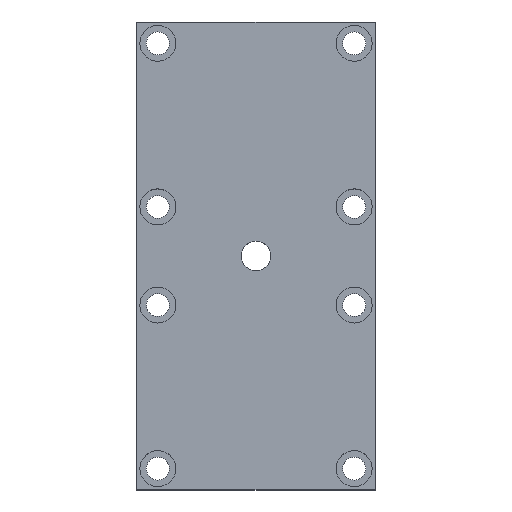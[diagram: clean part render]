
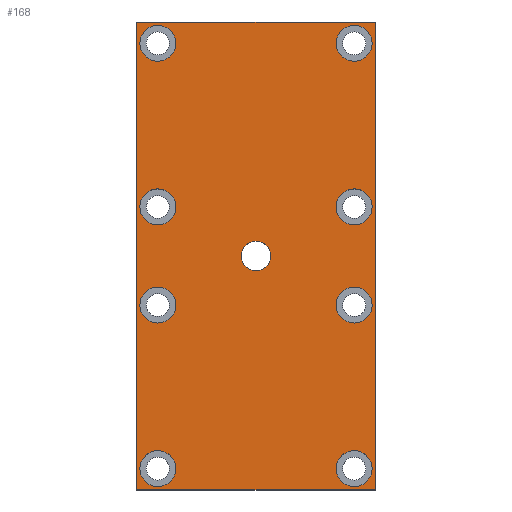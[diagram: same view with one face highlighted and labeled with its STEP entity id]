
A CAD part, top view. The second image highlights one B-rep face of the part: STEP entity #168.
In plain terms, the highlighted planar face has unit normal (0, 0, 1).
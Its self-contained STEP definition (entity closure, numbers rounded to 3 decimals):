
#69=FACE_BOUND('',#226,.T.);
#70=FACE_BOUND('',#227,.T.);
#71=FACE_BOUND('',#228,.T.);
#72=FACE_BOUND('',#229,.T.);
#73=FACE_BOUND('',#230,.T.);
#74=FACE_BOUND('',#231,.T.);
#75=FACE_BOUND('',#232,.T.);
#76=FACE_BOUND('',#233,.T.);
#77=FACE_BOUND('',#234,.T.);
#78=FACE_BOUND('',#235,.T.);
#138=CIRCLE('',#505,4.5);
#139=CIRCLE('',#506,5.5);
#140=CIRCLE('',#507,5.5);
#141=CIRCLE('',#508,5.5);
#142=CIRCLE('',#509,5.5);
#143=CIRCLE('',#510,5.5);
#144=CIRCLE('',#511,5.5);
#145=CIRCLE('',#512,5.5);
#146=CIRCLE('',#513,5.5);
#168=ADVANCED_FACE('',(#69,#70,#71,#72,#73,#74,#75,#76,#77,#78),#199,.T.);
#199=PLANE('',#514);
#226=EDGE_LOOP('',(#315));
#227=EDGE_LOOP('',(#316));
#228=EDGE_LOOP('',(#317));
#229=EDGE_LOOP('',(#318));
#230=EDGE_LOOP('',(#319));
#231=EDGE_LOOP('',(#320));
#232=EDGE_LOOP('',(#321));
#233=EDGE_LOOP('',(#322));
#234=EDGE_LOOP('',(#323));
#235=EDGE_LOOP('',(#324,#325,#326,#327));
#315=ORIENTED_EDGE('',*,*,#441,.T.);
#316=ORIENTED_EDGE('',*,*,#442,.T.);
#317=ORIENTED_EDGE('',*,*,#443,.T.);
#318=ORIENTED_EDGE('',*,*,#444,.T.);
#319=ORIENTED_EDGE('',*,*,#445,.T.);
#320=ORIENTED_EDGE('',*,*,#446,.T.);
#321=ORIENTED_EDGE('',*,*,#447,.T.);
#322=ORIENTED_EDGE('',*,*,#448,.T.);
#323=ORIENTED_EDGE('',*,*,#449,.T.);
#324=ORIENTED_EDGE('',*,*,#420,.T.);
#325=ORIENTED_EDGE('',*,*,#424,.T.);
#326=ORIENTED_EDGE('',*,*,#427,.T.);
#327=ORIENTED_EDGE('',*,*,#430,.T.);
#378=VERTEX_POINT('',#702);
#379=VERTEX_POINT('',#703);
#382=VERTEX_POINT('',#711);
#384=VERTEX_POINT('',#717);
#395=VERTEX_POINT('',#745);
#396=VERTEX_POINT('',#747);
#397=VERTEX_POINT('',#749);
#398=VERTEX_POINT('',#751);
#399=VERTEX_POINT('',#753);
#400=VERTEX_POINT('',#755);
#401=VERTEX_POINT('',#757);
#402=VERTEX_POINT('',#759);
#403=VERTEX_POINT('',#761);
#420=EDGE_CURVE('',#378,#379,#466,.T.);
#424=EDGE_CURVE('',#379,#382,#470,.T.);
#427=EDGE_CURVE('',#382,#384,#473,.T.);
#430=EDGE_CURVE('',#384,#378,#476,.T.);
#441=EDGE_CURVE('',#395,#395,#138,.T.);
#442=EDGE_CURVE('',#396,#396,#139,.T.);
#443=EDGE_CURVE('',#397,#397,#140,.T.);
#444=EDGE_CURVE('',#398,#398,#141,.T.);
#445=EDGE_CURVE('',#399,#399,#142,.T.);
#446=EDGE_CURVE('',#400,#400,#143,.T.);
#447=EDGE_CURVE('',#401,#401,#144,.T.);
#448=EDGE_CURVE('',#402,#402,#145,.T.);
#449=EDGE_CURVE('',#403,#403,#146,.T.);
#466=LINE('',#701,#478);
#470=LINE('',#710,#482);
#473=LINE('',#716,#485);
#476=LINE('',#722,#488);
#478=VECTOR('',#558,1.);
#482=VECTOR('',#564,1.);
#485=VECTOR('',#569,1.);
#488=VECTOR('',#574,1.);
#505=AXIS2_PLACEMENT_3D('',#744,#598,#599);
#506=AXIS2_PLACEMENT_3D('',#746,#600,#601);
#507=AXIS2_PLACEMENT_3D('',#748,#602,#603);
#508=AXIS2_PLACEMENT_3D('',#750,#604,#605);
#509=AXIS2_PLACEMENT_3D('',#752,#606,#607);
#510=AXIS2_PLACEMENT_3D('',#754,#608,#609);
#511=AXIS2_PLACEMENT_3D('',#756,#610,#611);
#512=AXIS2_PLACEMENT_3D('',#758,#612,#613);
#513=AXIS2_PLACEMENT_3D('',#760,#614,#615);
#514=AXIS2_PLACEMENT_3D('',#762,#616,#617);
#558=DIRECTION('',(1.,0.,0.));
#564=DIRECTION('',(0.,1.,0.));
#569=DIRECTION('',(-1.,0.,0.));
#574=DIRECTION('',(0.,-1.,0.));
#598=DIRECTION('',(0.,0.,-1.));
#599=DIRECTION('',(-1.,0.,0.));
#600=DIRECTION('',(0.,0.,-1.));
#601=DIRECTION('',(-1.,0.,0.));
#602=DIRECTION('',(0.,0.,-1.));
#603=DIRECTION('',(-1.,0.,0.));
#604=DIRECTION('',(0.,0.,-1.));
#605=DIRECTION('',(-1.,0.,0.));
#606=DIRECTION('',(0.,0.,-1.));
#607=DIRECTION('',(-1.,0.,0.));
#608=DIRECTION('',(0.,0.,-1.));
#609=DIRECTION('',(-1.,0.,0.));
#610=DIRECTION('',(0.,0.,-1.));
#611=DIRECTION('',(-1.,0.,0.));
#612=DIRECTION('',(0.,0.,-1.));
#613=DIRECTION('',(-1.,0.,0.));
#614=DIRECTION('',(0.,0.,-1.));
#615=DIRECTION('',(-1.,0.,0.));
#616=DIRECTION('',(0.,0.,1.));
#617=DIRECTION('',(1.,0.,0.));
#701=CARTESIAN_POINT('',(-36.5,-71.5,0.));
#702=CARTESIAN_POINT('',(-36.5,-71.5,0.));
#703=CARTESIAN_POINT('',(36.5,-71.5,0.));
#710=CARTESIAN_POINT('',(36.5,-71.5,0.));
#711=CARTESIAN_POINT('',(36.5,71.5,0.));
#716=CARTESIAN_POINT('',(36.5,71.5,0.));
#717=CARTESIAN_POINT('',(-36.5,71.5,0.));
#722=CARTESIAN_POINT('',(-36.5,71.5,0.));
#744=CARTESIAN_POINT('',(0.,0.,0.));
#745=CARTESIAN_POINT('',(-4.5,0.,0.));
#746=CARTESIAN_POINT('',(-30.,15.,0.));
#747=CARTESIAN_POINT('',(-35.5,15.,0.));
#748=CARTESIAN_POINT('',(-30.,65.,0.));
#749=CARTESIAN_POINT('',(-35.5,65.,0.));
#750=CARTESIAN_POINT('',(30.,65.,0.));
#751=CARTESIAN_POINT('',(24.5,65.,0.));
#752=CARTESIAN_POINT('',(30.,15.,0.));
#753=CARTESIAN_POINT('',(24.5,15.,0.));
#754=CARTESIAN_POINT('',(30.,-65.,0.));
#755=CARTESIAN_POINT('',(24.5,-65.,0.));
#756=CARTESIAN_POINT('',(30.,-15.,0.));
#757=CARTESIAN_POINT('',(24.5,-15.,0.));
#758=CARTESIAN_POINT('',(-30.,-65.,0.));
#759=CARTESIAN_POINT('',(-35.5,-65.,0.));
#760=CARTESIAN_POINT('',(-30.,-15.,0.));
#761=CARTESIAN_POINT('',(-35.5,-15.,0.));
#762=CARTESIAN_POINT('',(0.,0.,0.));
